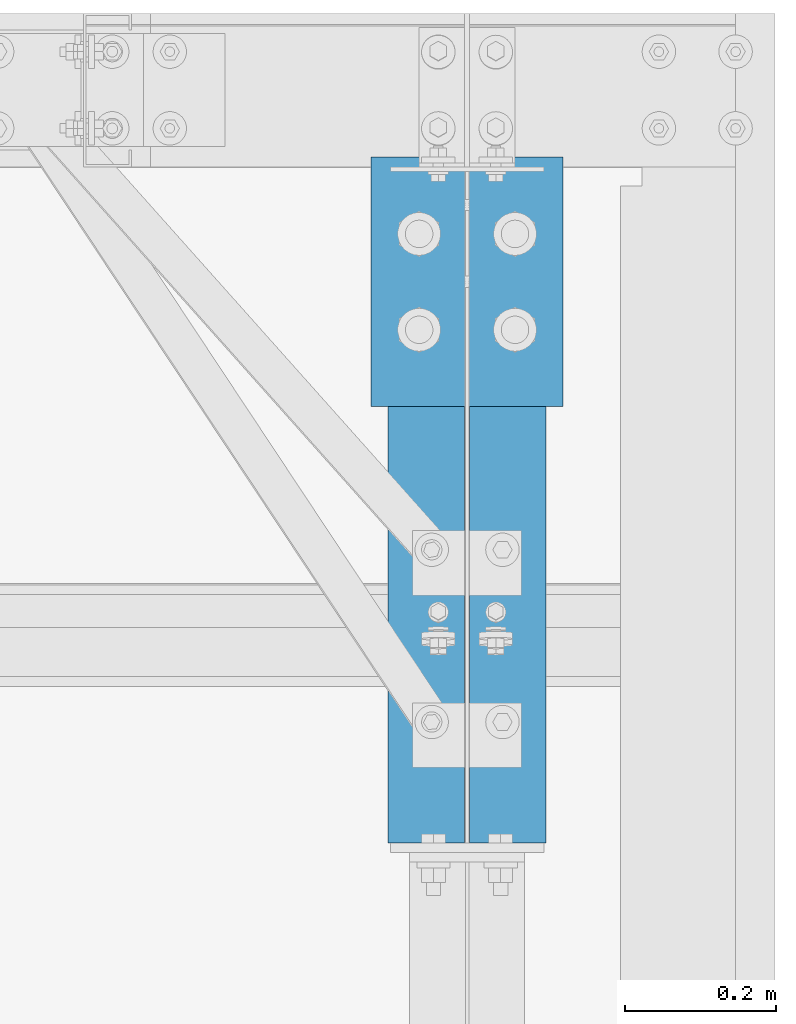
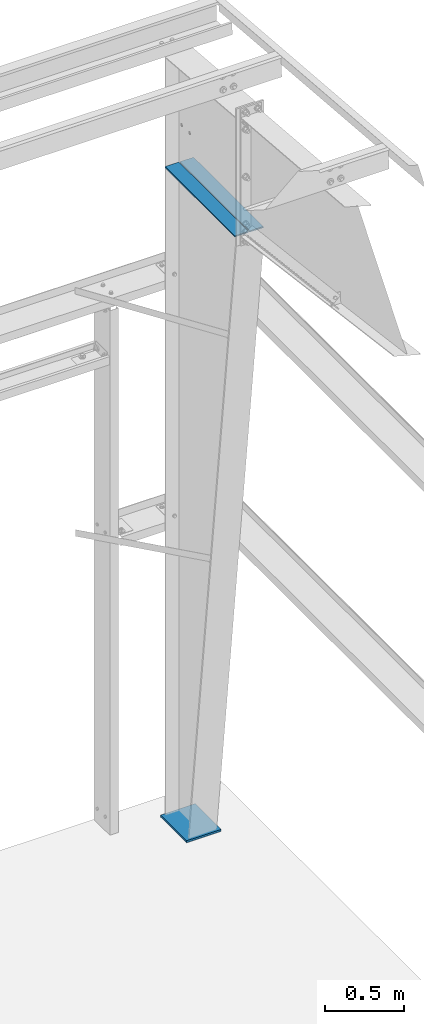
# One storey, part 119 of 185: 3 discrete accessories, 1 element without a shape of its own.
"""IFC2X3 building model written with IfcOpenShell, lengths in millimetres."""

from ifc_helpers import new_model, si_unit, frame, origin_with_axes, origin_2d_with_axis, place, context, subcontext, project, spatial, rectangle, extrude, material, type_object, element, aggregate, save


model = new_model("IFC2X3")

# Units and contexts
model_context = context("Model", 3, precision=1e-05, world=origin_with_axes())
body_context = subcontext(model_context, "Body", "Model", "MODEL_VIEW")
ifc_project = project(units=[si_unit("LENGTHUNIT", "METRE", prefix="MILLI"), si_unit("AREAUNIT", "SQUARE_METRE"), si_unit("VOLUMEUNIT", "CUBIC_METRE"), si_unit("MASSUNIT", "GRAM", prefix="KILO"), si_unit("TIMEUNIT", "SECOND"), si_unit("PLANEANGLEUNIT", "RADIAN"), si_unit("SOLIDANGLEUNIT", "STERADIAN"), si_unit("THERMODYNAMICTEMPERATUREUNIT", "DEGREE_CELSIUS"), si_unit("LUMINOUSINTENSITYUNIT", "LUMEN")], contexts=[model_context])

# Site, building, storey
site_placement = place(None, origin_with_axes())
site = spatial("IfcSite", under=ifc_project, at=site_placement, Name="Undefined", CompositionType="ELEMENT")
building_placement = place(site_placement, origin_with_axes())
building = spatial("IfcBuilding", under=site, at=building_placement, Name="Undefined", CompositionType="ELEMENT")
storey_placement = place(building_placement, origin_with_axes())
storey = spatial("IfcBuildingStorey", under=building, at=storey_placement, Name="Undefined", CompositionType="ELEMENT", Elevation=0.0)

# Assembly, discrete accessories
assembly_placement = place(storey_placement, origin_with_axes())
assembly = element("IfcElementAssembly", 1, at=assembly_placement, inside=storey, Name="Steel Assembly", AssemblyPlace="NOTDEFINED", PredefinedType="RIGID_FRAME")
ifc_material = material(Name="STEEL/55")
discrete_accessory_type_1 = type_object("IfcDiscreteAccessoryType", Name="Stiff")
discrete_accessory_1_placement = place(assembly_placement, frame((44497.625, 31794.45, 5055.93231443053), z_axis=(1.0, 0.0, 0.0), x_axis=(0.0, -1.0, 0.0)))
discrete_accessory_1 = element("IfcDiscreteAccessory", 2, at=discrete_accessory_1_placement, type_object=discrete_accessory_type_1, material=ifc_material, Name="Stiff", ObjectType="FL3/8\"X4\"", context=body_context, shape_type="SweptSolid", body=[
    extrude(rectangle(XDim=9.525, YDim=101.6, at=origin_2d_with_axis()), frame((889.0, 0.0, 0.0), z_axis=(-1.0, 0.0, 0.0), x_axis=(0.0, -1.0, 0.0)), (0.0, 0.0, 1.0), 889.0),
])
discrete_accessory_2_placement = place(assembly_placement, frame((44605.575, 31794.45, 5055.93231443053), z_axis=(1.0, 0.0, 0.0), x_axis=(0.0, -1.0, 0.0)))
discrete_accessory_2 = element("IfcDiscreteAccessory", 3, at=discrete_accessory_2_placement, type_object=discrete_accessory_type_1, material=ifc_material, Name="Stiff", ObjectType="FL3/8\"X4\"", context=body_context, shape_type="SweptSolid", body=[
    extrude(rectangle(XDim=9.525, YDim=101.6, at=origin_2d_with_axis()), frame((889.0, 0.0, 0.0), z_axis=(-1.0, 0.0, 0.0), x_axis=(0.0, -1.0, 0.0)), (0.0, 0.0, 1.0), 889.0),
])
discrete_accessory_type_2 = type_object("IfcDiscreteAccessoryType", Name="Base Plate")
discrete_accessory_3_placement = place(assembly_placement, frame((44551.6, 31813.4999998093, 7.93749999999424), z_axis=(-1.0, 0.0, 0.0), x_axis=(0.0, -1.0, 0.0)))
discrete_accessory_3 = element("IfcDiscreteAccessory", 4, at=discrete_accessory_3_placement, type_object=discrete_accessory_type_2, material=ifc_material, Name="Base Plate", ObjectType="FL5/8\"X10\"", context=body_context, shape_type="SweptSolid", body=[
    extrude(rectangle(XDim=15.875, YDim=254.0, at=origin_2d_with_axis()), frame((330.256867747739, 0.0, 0.0), z_axis=(-1.0, 0.0, 0.0), x_axis=(0.0, -1.0, 0.0)), (0.0, 0.0, 1.0), 330.3),
])
aggregate(assembly, [discrete_accessory_1, discrete_accessory_2, discrete_accessory_3])

save(model, "model.ifc")
